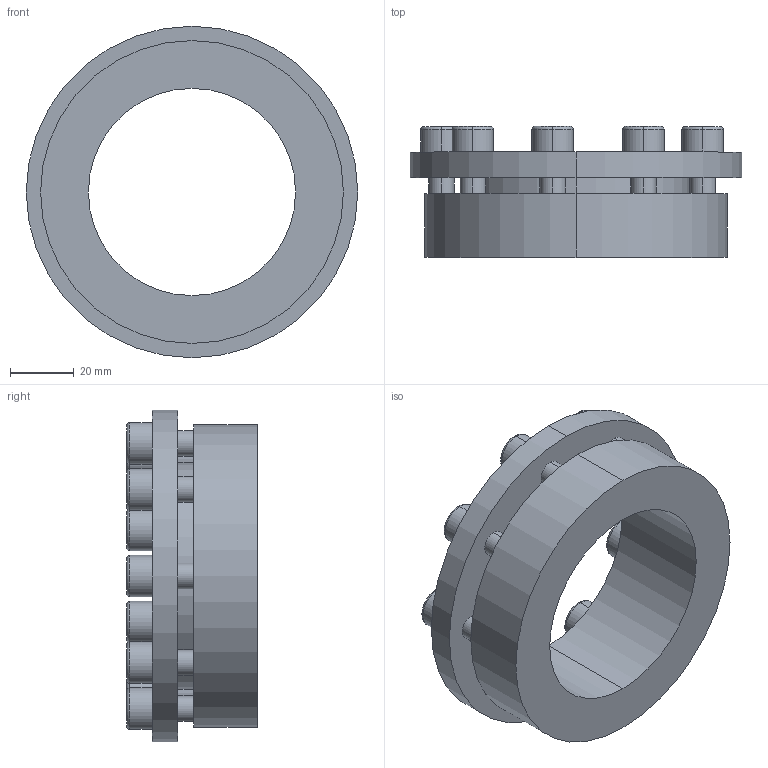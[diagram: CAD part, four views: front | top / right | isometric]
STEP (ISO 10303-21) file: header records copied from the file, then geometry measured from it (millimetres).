
FILE_DESCRIPTION (( 'STEP AP203' ), '1' );
FILE_NAME ('PL-H6 65-95.STEP', '2021-10-23T01:37:22', ( '' ), ( '' ), 'SwSTEP 2.0', 'SolidWorks 2018', '' );
FILE_SCHEMA (( 'CONFIG_CONTROL_DESIGN' ));
Length unit declared in the file: millimetre
Products named in the file (1): PL-H6 65-95
Bounding box: 104 x 41 x 104 mm (x, y, z)
Volume: 130635.3 mm3; surface area: 36801.2 mm2
Topology: 1 solids, 1 shells, 138 faces, 330 edges, 214 vertices
Faces by surface type: plane 76, cylinder 44, torus 18
Entity records: 4131 total; most frequent: DIRECTION 732, CARTESIAN_POINT 683, ORIENTED_EDGE 660, EDGE_CURVE 330, AXIS2_PLACEMENT_3D 263, VERTEX_POINT 214, VECTOR 206, LINE 206
